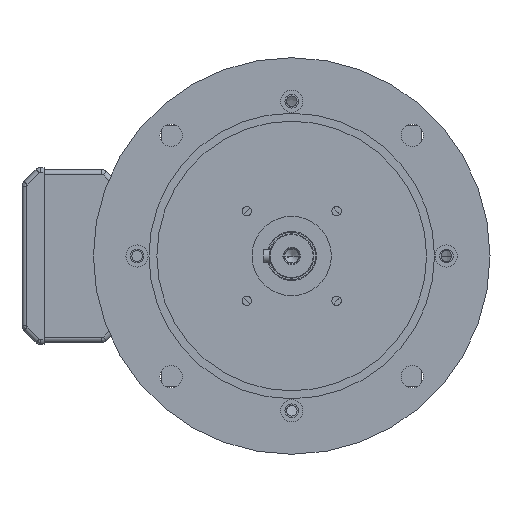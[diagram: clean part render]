
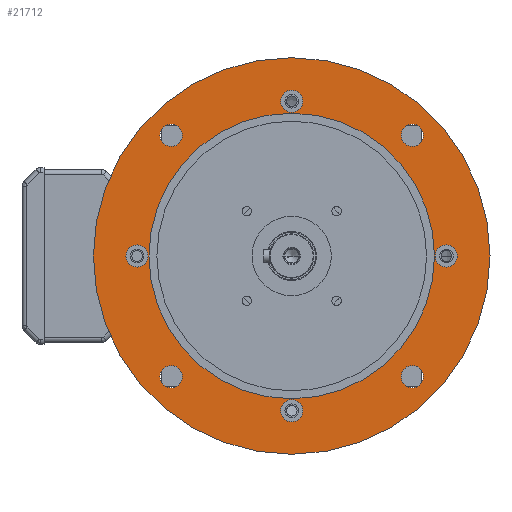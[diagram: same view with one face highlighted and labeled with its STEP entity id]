
A CAD part, left-side view. The second image highlights one B-rep face of the part: STEP entity #21712.
In plain terms, the highlighted planar face has unit normal (-1, 0, 0) as drawn and (0, 1, 0) by its records, which use the part's own axes.
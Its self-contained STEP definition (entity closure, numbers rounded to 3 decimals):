
#19497=CARTESIAN_POINT('',(0.,48.,0.));
#19498=DIRECTION('',(0.,1.,0.));
#19499=DIRECTION('',(-1.,0.,0.));
#19500=AXIS2_PLACEMENT_3D('',#19497,#19498,#19499);
#19519=CARTESIAN_POINT('',(0.,48.,0.));
#19520=DIRECTION('',(0.,-1.,0.));
#19521=DIRECTION('',(-1.,0.,0.));
#19522=AXIS2_PLACEMENT_3D('',#19519,#19520,#19521);
#19527=CARTESIAN_POINT('',(0.,48.,0.));
#19528=DIRECTION('',(0.,1.,0.));
#19529=DIRECTION('',(-1.,0.,0.));
#19530=AXIS2_PLACEMENT_3D('',#19527,#19528,#19529);
#19535=CARTESIAN_POINT('',(0.,48.,0.));
#19536=DIRECTION('',(0.,-1.,0.));
#19537=DIRECTION('',(-1.,0.,0.));
#19538=AXIS2_PLACEMENT_3D('',#19535,#19536,#19537);
#19543=CARTESIAN_POINT('',(76.014,48.,76.014));
#19544=DIRECTION('',(0.,1.,0.));
#19545=DIRECTION('',(1.,0.,0.));
#19546=AXIS2_PLACEMENT_3D('',#19543,#19544,#19545);
#19551=CARTESIAN_POINT('',(76.014,48.,76.014));
#19552=DIRECTION('',(0.,1.,0.));
#19553=DIRECTION('',(-1.,0.,0.));
#19554=AXIS2_PLACEMENT_3D('',#19551,#19552,#19553);
#19559=CARTESIAN_POINT('',(76.014,48.,-76.014));
#19560=DIRECTION('',(0.,1.,0.));
#19561=DIRECTION('',(1.,0.,0.));
#19562=AXIS2_PLACEMENT_3D('',#19559,#19560,#19561);
#19567=CARTESIAN_POINT('',(76.014,48.,-76.014));
#19568=DIRECTION('',(0.,1.,0.));
#19569=DIRECTION('',(-1.,0.,0.));
#19570=AXIS2_PLACEMENT_3D('',#19567,#19568,#19569);
#19575=CARTESIAN_POINT('',(-76.014,48.,-76.014));
#19576=DIRECTION('',(0.,1.,0.));
#19577=DIRECTION('',(1.,0.,0.));
#19578=AXIS2_PLACEMENT_3D('',#19575,#19576,#19577);
#19583=CARTESIAN_POINT('',(-76.014,48.,-76.014));
#19584=DIRECTION('',(0.,1.,0.));
#19585=DIRECTION('',(-1.,0.,0.));
#19586=AXIS2_PLACEMENT_3D('',#19583,#19584,#19585);
#19591=CARTESIAN_POINT('',(-76.014,48.,76.014));
#19592=DIRECTION('',(0.,1.,0.));
#19593=DIRECTION('',(1.,0.,0.));
#19594=AXIS2_PLACEMENT_3D('',#19591,#19592,#19593);
#19599=CARTESIAN_POINT('',(-76.014,48.,76.014));
#19600=DIRECTION('',(0.,1.,0.));
#19601=DIRECTION('',(-1.,0.,0.));
#19602=AXIS2_PLACEMENT_3D('',#19599,#19600,#19601);
#19607=CARTESIAN_POINT('',(-97.5,48.,0.));
#19608=DIRECTION('',(0.,1.,0.));
#19609=DIRECTION('',(0.,0.,-1.));
#19610=AXIS2_PLACEMENT_3D('',#19607,#19608,#19609);
#19615=CARTESIAN_POINT('',(-97.5,48.,0.));
#19616=DIRECTION('',(0.,1.,0.));
#19617=DIRECTION('',(0.,0.,1.));
#19618=AXIS2_PLACEMENT_3D('',#19615,#19616,#19617);
#19623=CARTESIAN_POINT('',(97.5,48.,0.));
#19624=DIRECTION('',(0.,1.,0.));
#19625=DIRECTION('',(0.,0.,-1.));
#19626=AXIS2_PLACEMENT_3D('',#19623,#19624,#19625);
#19631=CARTESIAN_POINT('',(97.5,48.,0.));
#19632=DIRECTION('',(0.,1.,0.));
#19633=DIRECTION('',(0.,0.,1.));
#19634=AXIS2_PLACEMENT_3D('',#19631,#19632,#19633);
#19639=CARTESIAN_POINT('',(0.,48.,97.5));
#19640=DIRECTION('',(0.,1.,0.));
#19641=DIRECTION('',(0.,0.,-1.));
#19642=AXIS2_PLACEMENT_3D('',#19639,#19640,#19641);
#19647=CARTESIAN_POINT('',(0.,48.,97.5));
#19648=DIRECTION('',(0.,1.,0.));
#19649=DIRECTION('',(0.,0.,1.));
#19650=AXIS2_PLACEMENT_3D('',#19647,#19648,#19649);
#19655=CARTESIAN_POINT('',(0.,48.,-97.5));
#19656=DIRECTION('',(0.,1.,0.));
#19657=DIRECTION('',(0.,0.,-1.));
#19658=AXIS2_PLACEMENT_3D('',#19655,#19656,#19657);
#19663=CARTESIAN_POINT('',(0.,48.,-97.5));
#19664=DIRECTION('',(0.,1.,0.));
#19665=DIRECTION('',(0.,0.,1.));
#19666=AXIS2_PLACEMENT_3D('',#19663,#19664,#19665);
#21133=CARTESIAN_POINT('',(-125.,48.,0.));
#21135=VERTEX_POINT('',#21133);
#21137=CARTESIAN_POINT('',(125.,48.,0.));
#21139=VERTEX_POINT('',#21137);
#21142=CARTESIAN_POINT('',(-90.,48.,0.));
#21144=VERTEX_POINT('',#21142);
#21146=CARTESIAN_POINT('',(90.,48.,0.));
#21148=VERTEX_POINT('',#21146);
#21233=CARTESIAN_POINT('',(-97.5,48.,-7.));
#21234=CARTESIAN_POINT('',(-97.5,48.,7.));
#21235=VERTEX_POINT('',#21233);
#21236=VERTEX_POINT('',#21234);
#21237=CARTESIAN_POINT('',(97.5,48.,-7.));
#21238=CARTESIAN_POINT('',(97.5,48.,7.));
#21239=VERTEX_POINT('',#21237);
#21240=VERTEX_POINT('',#21238);
#21241=CARTESIAN_POINT('',(0.,48.,90.5));
#21242=CARTESIAN_POINT('',(0.,48.,104.5));
#21243=VERTEX_POINT('',#21241);
#21244=VERTEX_POINT('',#21242);
#21277=CARTESIAN_POINT('',(83.014,48.,76.014));
#21278=CARTESIAN_POINT('',(69.014,48.,76.014));
#21279=VERTEX_POINT('',#21277);
#21280=VERTEX_POINT('',#21278);
#21281=CARTESIAN_POINT('',(83.014,48.,-76.014));
#21282=CARTESIAN_POINT('',(69.014,48.,-76.014));
#21283=VERTEX_POINT('',#21281);
#21284=VERTEX_POINT('',#21282);
#21285=CARTESIAN_POINT('',(-69.014,48.,-76.014));
#21286=CARTESIAN_POINT('',(-83.014,48.,-76.014));
#21287=VERTEX_POINT('',#21285);
#21288=VERTEX_POINT('',#21286);
#21289=CARTESIAN_POINT('',(-69.014,48.,76.014));
#21290=CARTESIAN_POINT('',(-83.014,48.,76.014));
#21291=VERTEX_POINT('',#21289);
#21292=VERTEX_POINT('',#21290);
#21425=CARTESIAN_POINT('',(0.,48.,-104.5));
#21426=CARTESIAN_POINT('',(0.,48.,-90.5));
#21427=VERTEX_POINT('',#21425);
#21428=VERTEX_POINT('',#21426);
#21649=CARTESIAN_POINT('',(0.,48.,0.));
#21650=DIRECTION('',(0.,1.,0.));
#21651=DIRECTION('',(1.,0.,0.));
#21652=AXIS2_PLACEMENT_3D('',#21649,#21650,#21651);
#21653=PLANE('',#21652);
#21654=ORIENTED_EDGE('',*,*,#21644,.T.);
#21655=ORIENTED_EDGE('',*,*,#21628,.F.);
#21656=EDGE_LOOP('',(#21654,#21655));
#21657=FACE_OUTER_BOUND('',#21656,.F.);
#21659=ORIENTED_EDGE('',*,*,#21658,.T.);
#21661=ORIENTED_EDGE('',*,*,#21660,.F.);
#21662=EDGE_LOOP('',(#21659,#21661));
#21663=FACE_BOUND('',#21662,.F.);
#21665=ORIENTED_EDGE('',*,*,#21664,.T.);
#21667=ORIENTED_EDGE('',*,*,#21666,.T.);
#21668=EDGE_LOOP('',(#21665,#21667));
#21669=FACE_BOUND('',#21668,.F.);
#21671=ORIENTED_EDGE('',*,*,#21670,.T.);
#21673=ORIENTED_EDGE('',*,*,#21672,.T.);
#21674=EDGE_LOOP('',(#21671,#21673));
#21675=FACE_BOUND('',#21674,.F.);
#21677=ORIENTED_EDGE('',*,*,#21676,.T.);
#21679=ORIENTED_EDGE('',*,*,#21678,.T.);
#21680=EDGE_LOOP('',(#21677,#21679));
#21681=FACE_BOUND('',#21680,.F.);
#21683=ORIENTED_EDGE('',*,*,#21682,.T.);
#21685=ORIENTED_EDGE('',*,*,#21684,.T.);
#21686=EDGE_LOOP('',(#21683,#21685));
#21687=FACE_BOUND('',#21686,.F.);
#21689=ORIENTED_EDGE('',*,*,#21688,.T.);
#21691=ORIENTED_EDGE('',*,*,#21690,.T.);
#21692=EDGE_LOOP('',(#21689,#21691));
#21693=FACE_BOUND('',#21692,.F.);
#21695=ORIENTED_EDGE('',*,*,#21694,.T.);
#21697=ORIENTED_EDGE('',*,*,#21696,.T.);
#21698=EDGE_LOOP('',(#21695,#21697));
#21699=FACE_BOUND('',#21698,.F.);
#21701=ORIENTED_EDGE('',*,*,#21700,.T.);
#21703=ORIENTED_EDGE('',*,*,#21702,.T.);
#21704=EDGE_LOOP('',(#21701,#21703));
#21705=FACE_BOUND('',#21704,.F.);
#21707=ORIENTED_EDGE('',*,*,#21706,.T.);
#21709=ORIENTED_EDGE('',*,*,#21708,.T.);
#21710=EDGE_LOOP('',(#21707,#21709));
#21711=FACE_BOUND('',#21710,.F.);
#21712=ADVANCED_FACE('',(#21657,#21663,#21669,#21675,#21681,#21687,#21693,
#21699,#21705,#21711),#21653,.T.);
#19501=CIRCLE('',#19500,125.);
#19523=CIRCLE('',#19522,125.);
#19531=CIRCLE('',#19530,90.);
#19539=CIRCLE('',#19538,90.);
#19547=CIRCLE('',#19546,7.);
#19555=CIRCLE('',#19554,7.);
#19563=CIRCLE('',#19562,7.);
#19571=CIRCLE('',#19570,7.);
#19579=CIRCLE('',#19578,7.);
#19587=CIRCLE('',#19586,7.);
#19595=CIRCLE('',#19594,7.);
#19603=CIRCLE('',#19602,7.);
#19611=CIRCLE('',#19610,7.);
#19619=CIRCLE('',#19618,7.);
#19627=CIRCLE('',#19626,7.);
#19635=CIRCLE('',#19634,7.);
#19643=CIRCLE('',#19642,7.);
#19651=CIRCLE('',#19650,7.);
#19659=CIRCLE('',#19658,7.);
#19667=CIRCLE('',#19666,7.);
#21628=EDGE_CURVE('',#21135,#21139,#19501,.T.);
#21644=EDGE_CURVE('',#21135,#21139,#19523,.T.);
#21658=EDGE_CURVE('',#21144,#21148,#19531,.T.);
#21660=EDGE_CURVE('',#21144,#21148,#19539,.T.);
#21664=EDGE_CURVE('',#21279,#21280,#19547,.T.);
#21666=EDGE_CURVE('',#21280,#21279,#19555,.T.);
#21670=EDGE_CURVE('',#21283,#21284,#19563,.T.);
#21672=EDGE_CURVE('',#21284,#21283,#19571,.T.);
#21676=EDGE_CURVE('',#21287,#21288,#19579,.T.);
#21678=EDGE_CURVE('',#21288,#21287,#19587,.T.);
#21682=EDGE_CURVE('',#21291,#21292,#19595,.T.);
#21684=EDGE_CURVE('',#21292,#21291,#19603,.T.);
#21688=EDGE_CURVE('',#21235,#21236,#19611,.T.);
#21690=EDGE_CURVE('',#21236,#21235,#19619,.T.);
#21694=EDGE_CURVE('',#21239,#21240,#19627,.T.);
#21696=EDGE_CURVE('',#21240,#21239,#19635,.T.);
#21700=EDGE_CURVE('',#21243,#21244,#19643,.T.);
#21702=EDGE_CURVE('',#21244,#21243,#19651,.T.);
#21706=EDGE_CURVE('',#21427,#21428,#19659,.T.);
#21708=EDGE_CURVE('',#21428,#21427,#19667,.T.);
